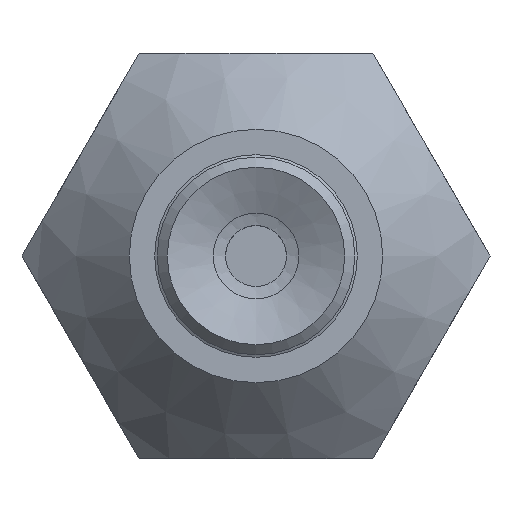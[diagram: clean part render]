
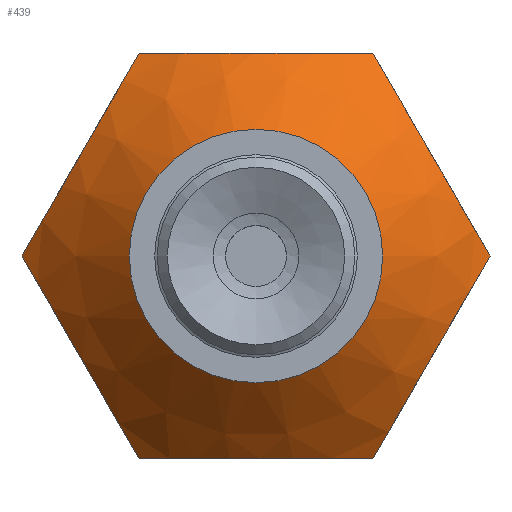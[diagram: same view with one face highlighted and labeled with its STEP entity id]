
A CAD part, front view. The second image highlights one B-rep face of the part: STEP entity #439.
In plain terms, the highlighted conical face has half-angle 45 degrees and reference radius 2.5 mm.
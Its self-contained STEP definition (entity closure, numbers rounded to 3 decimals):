
#439=ADVANCED_FACE('',(#601,#602),#603,.T.);
#601=FACE_BOUND('',#859,.T.);
#602=FACE_OUTER_BOUND('',#860,.T.);
#603=CONICAL_SURFACE('',#861,2.5,0.785);
#859=EDGE_LOOP('',(#1330));
#860=EDGE_LOOP('',(#1331,#1332,#1333,#1334,#1335,#1336));
#861=AXIS2_PLACEMENT_3D('',#1337,#1338,#1339);
#1330=ORIENTED_EDGE('',*,*,#1792,.F.);
#1331=ORIENTED_EDGE('',*,*,#1793,.F.);
#1332=ORIENTED_EDGE('',*,*,#1794,.F.);
#1333=ORIENTED_EDGE('',*,*,#1795,.F.);
#1334=ORIENTED_EDGE('',*,*,#1787,.F.);
#1335=ORIENTED_EDGE('',*,*,#1796,.F.);
#1336=ORIENTED_EDGE('',*,*,#1797,.F.);
#1337=CARTESIAN_POINT('',(0.0,0.,0.0));
#1338=DIRECTION('',(-0.0,1.0,-0.0));
#1339=DIRECTION('',(0.0,0.0,1.0));
#1787=EDGE_CURVE('',#2015,#2016,#2017,.T.);
#1792=EDGE_CURVE('',#2025,#2025,#2026,.T.);
#1793=EDGE_CURVE('',#2027,#2028,#2029,.T.);
#1794=EDGE_CURVE('',#2030,#2027,#2031,.T.);
#1795=EDGE_CURVE('',#2016,#2030,#2032,.T.);
#1796=EDGE_CURVE('',#2033,#2015,#2034,.T.);
#1797=EDGE_CURVE('',#2028,#2033,#2035,.T.);
#2015=VERTEX_POINT('',#2559);
#2016=VERTEX_POINT('',#2560);
#2017=B_SPLINE_CURVE_WITH_KNOTS('',2,(#2561,#2562,#2563,#2564,#2565),.UNSPECIFIED.,.F.,.F.,(3,2,3),(0.0,0.5,1.0),.UNSPECIFIED.);
#2025=VERTEX_POINT('',#2579);
#2026=CIRCLE('',#2580,2.5);
#2027=VERTEX_POINT('',#2581);
#2028=VERTEX_POINT('',#2582);
#2029=B_SPLINE_CURVE_WITH_KNOTS('',2,(#2583,#2584,#2585,#2586,#2587),.UNSPECIFIED.,.F.,.F.,(3,2,3),(0.0,0.5,1.0),.UNSPECIFIED.);
#2030=VERTEX_POINT('',#2588);
#2031=B_SPLINE_CURVE_WITH_KNOTS('',2,(#2589,#2590,#2591,#2592,#2593),.UNSPECIFIED.,.F.,.F.,(3,2,3),(0.0,0.5,1.0),.UNSPECIFIED.);
#2032=B_SPLINE_CURVE_WITH_KNOTS('',2,(#2594,#2595,#2596,#2597,#2598),.UNSPECIFIED.,.F.,.F.,(3,2,3),(0.0,0.5,1.0),.UNSPECIFIED.);
#2033=VERTEX_POINT('',#2599);
#2034=B_SPLINE_CURVE_WITH_KNOTS('',2,(#2600,#2601,#2602,#2603,#2604),.UNSPECIFIED.,.F.,.F.,(3,2,3),(0.0,0.5,1.0),.UNSPECIFIED.);
#2035=B_SPLINE_CURVE_WITH_KNOTS('',2,(#2605,#2606,#2607,#2608,#2609),.UNSPECIFIED.,.F.,.F.,(3,2,3),(0.0,0.5,1.0),.UNSPECIFIED.);
#2559=CARTESIAN_POINT('',(-4.619,2.119,0.));
#2560=CARTESIAN_POINT('',(-2.309,2.119,4.0));
#2561=CARTESIAN_POINT('',(-4.619,2.119,0.));
#2562=CARTESIAN_POINT('',(-4.002,1.502,1.068));
#2563=CARTESIAN_POINT('',(-3.468,1.5,1.993));
#2564=CARTESIAN_POINT('',(-2.93,1.498,2.925));
#2565=CARTESIAN_POINT('',(-2.309,2.119,4.));
#2579=CARTESIAN_POINT('',(0.0,0.,-2.5));
#2580=AXIS2_PLACEMENT_3D('',#2977,#2978,#2979);
#2581=CARTESIAN_POINT('',(4.619,2.119,0.));
#2582=CARTESIAN_POINT('',(2.309,2.119,-4.0));
#2583=CARTESIAN_POINT('',(4.619,2.119,0.));
#2584=CARTESIAN_POINT('',(4.002,1.502,-1.068));
#2585=CARTESIAN_POINT('',(3.468,1.5,-1.993));
#2586=CARTESIAN_POINT('',(2.93,1.498,-2.925));
#2587=CARTESIAN_POINT('',(2.309,2.119,-4.));
#2588=CARTESIAN_POINT('',(2.309,2.119,4.0));
#2589=CARTESIAN_POINT('',(2.309,2.119,4.0));
#2590=CARTESIAN_POINT('',(2.926,1.502,2.932));
#2591=CARTESIAN_POINT('',(3.46,1.5,2.007));
#2592=CARTESIAN_POINT('',(3.998,1.498,1.075));
#2593=CARTESIAN_POINT('',(4.619,2.119,0.));
#2594=CARTESIAN_POINT('',(-2.309,2.119,4.0));
#2595=CARTESIAN_POINT('',(-1.072,1.5,4.0));
#2596=CARTESIAN_POINT('',(-0.001,1.5,4.0));
#2597=CARTESIAN_POINT('',(1.071,1.5,4.0));
#2598=CARTESIAN_POINT('',(2.309,2.119,4.0));
#2599=CARTESIAN_POINT('',(-2.309,2.119,-4.0));
#2600=CARTESIAN_POINT('',(-2.309,2.119,-4.0));
#2601=CARTESIAN_POINT('',(-2.926,1.502,-2.932));
#2602=CARTESIAN_POINT('',(-3.46,1.5,-2.007));
#2603=CARTESIAN_POINT('',(-3.998,1.498,-1.075));
#2604=CARTESIAN_POINT('',(-4.619,2.119,0.));
#2605=CARTESIAN_POINT('',(2.309,2.119,-4.0));
#2606=CARTESIAN_POINT('',(1.072,1.5,-4.0));
#2607=CARTESIAN_POINT('',(0.001,1.5,-4.0));
#2608=CARTESIAN_POINT('',(-1.071,1.5,-4.0));
#2609=CARTESIAN_POINT('',(-2.309,2.119,-4.0));
#2977=CARTESIAN_POINT('',(0.0,0.,0.0));
#2978=DIRECTION('',(0.0,-1.0,0.0));
#2979=DIRECTION('',(0.0,0.0,-1.0));
